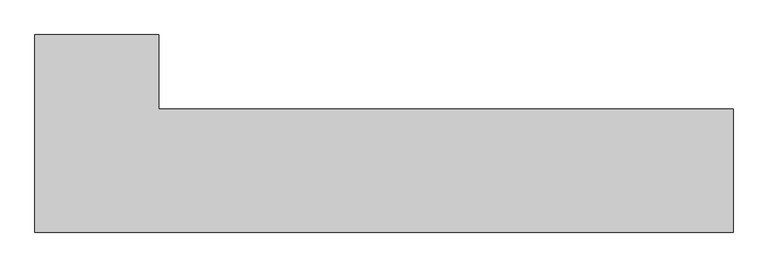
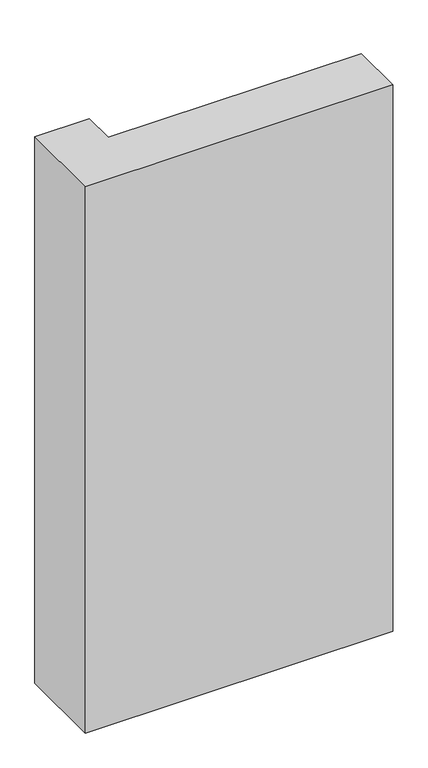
"""IFC4 building model written with IfcOpenShell, lengths in millimetres: column geometry, Columna Estructural Ele : ECO_Ele 40x141x25."""

from ifc_helpers import new_model, si_unit, frame, origin, place, context, project, spatial, polyline, outline, extrude, source, transform, mapped, element, save


def column_0e50a8ba(model_context):
    return source(origin(), model_context, "Body", "SweptSolid", [
        extrude(outline(polyline([(125.0, 275.0), (125.0, 125.0), (1285.0, 125.0), (1285.0, -125.0), (-125.0, -125.0), (-125.0, 275.0), (125.0, 275.0)])), frame((0.0, 0.0, 8050.0), z_axis=(0.0, 0.0, 1.0), x_axis=(1.0, 0.0, 0.0)), (0.0, 0.0, 1.0), 2650.0),
    ])


if __name__ == "__main__":
    model = new_model("IFC4")
    model_context = context("Model", 3, world=origin())
    ifc_project = project(units=[si_unit("LENGTHUNIT", "METRE", prefix="MILLI")], contexts=[model_context])
    site = spatial("IfcSite", under=ifc_project)
    building = spatial("IfcBuilding", under=site)
    placement = place(None, origin())
    column_shape = column_0e50a8ba(model_context)
    element("IfcColumn", 1, ObjectType="Columna Estructural Ele : ECO_Ele 40x141x25", at=placement, inside=building, context=model_context, shape_type="MappedRepresentation", body=[
        mapped(column_shape, transform((0.0, 0.0, 0.0), x_axis=(1.0, 0.0, 0.0), y_axis=(0.0, 1.0, 0.0), z_axis=(0.0, 0.0, 1.0))),
    ])
    save(model, "model.ifc")
